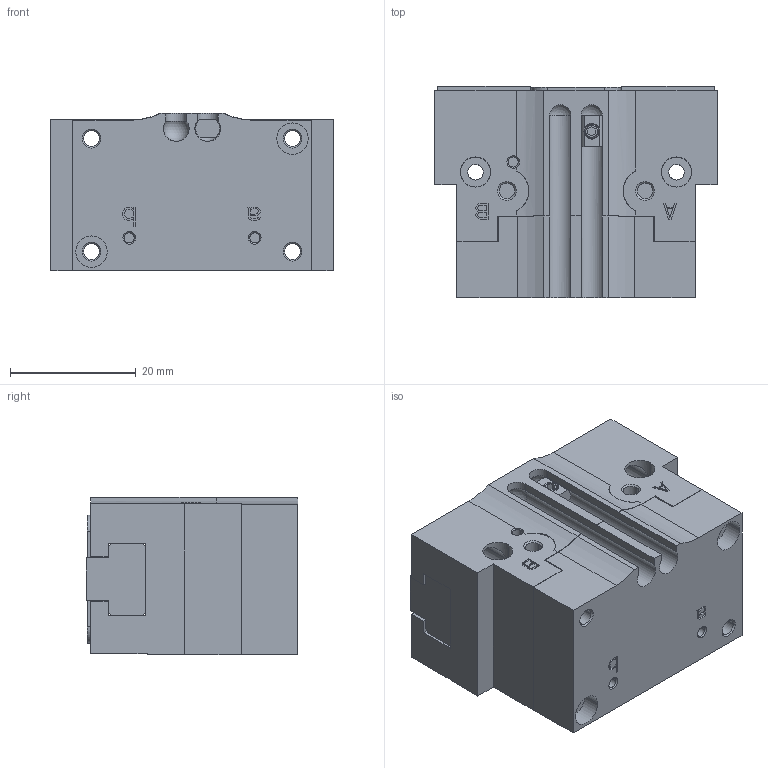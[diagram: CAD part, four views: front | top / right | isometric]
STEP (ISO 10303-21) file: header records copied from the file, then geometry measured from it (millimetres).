
FILE_DESCRIPTION((''),'2;1');
FILE_NAME('R412026308_ASM','2017-11-22T',('vol1hc'),(''),'CREO PARAMETRIC BY PTC INC, 2016260','CREO PARAMETRIC BY PTC INC, 2016260','');
FILE_SCHEMA(('CONFIG_CONTROL_DESIGN'));
Length unit declared in the file: millimetre
Products named in the file (4): R412026308-A; R412026308-B; R412026308-C; R412026308_ASM
Assembly tree (4 placements, depth 2):
  R412026308_ASM
    R412026308-A
    R412026308-B  x2
    R412026308-C
Bounding box: 45 x 33.7 x 25 mm (x, y, z)
Volume: 29603.4 mm3; surface area: 13167.8 mm2
Topology: 4 solids, 4 shells, 478 faces, 1222 edges, 783 vertices
Faces by surface type: plane 311, cylinder 110, cone 53, sphere 2, bspline 2
Entity records: 14069 total; most frequent: CARTESIAN_POINT 3015, ORIENTED_EDGE 2268, DIRECTION 2247, EDGE_CURVE 1134, VECTOR 865, LINE 865, VERTEX_POINT 727, AXIS2_PLACEMENT_3D 691
